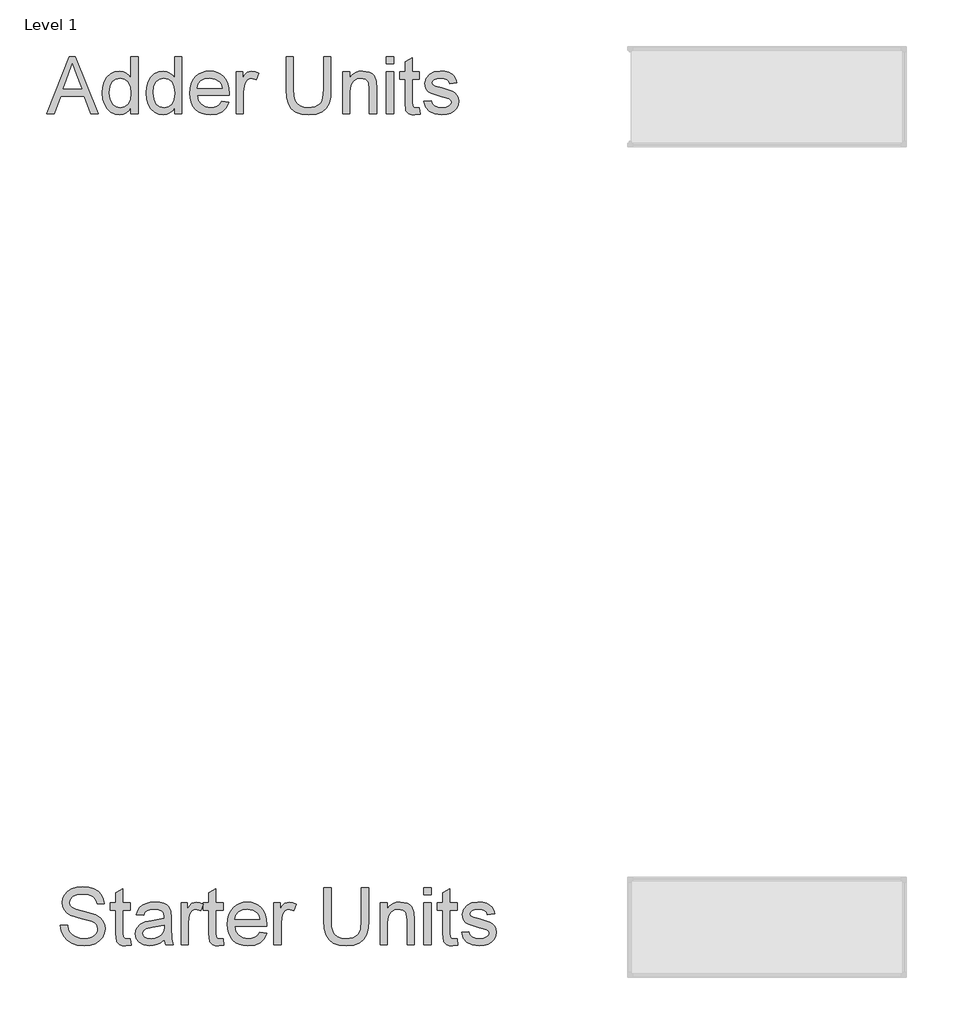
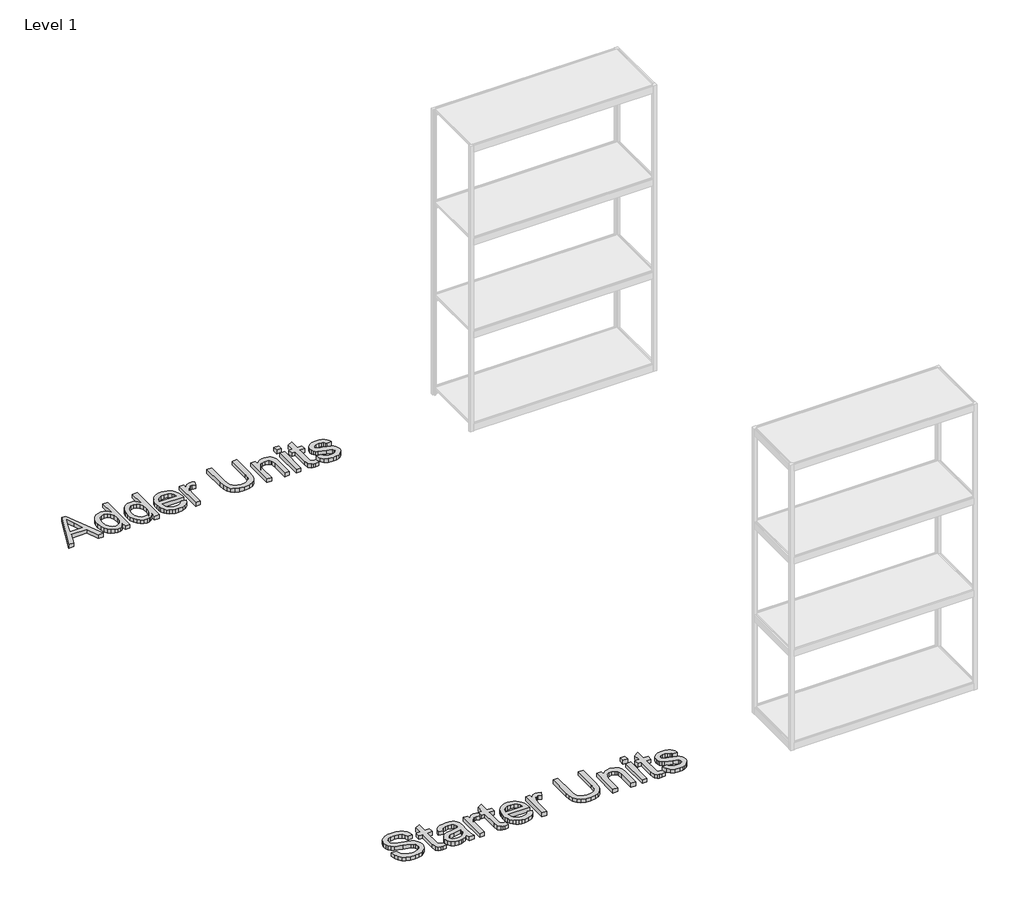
# One storey, part 5 of 5: 2 proxies.
"""IFC4 building model written with IfcOpenShell, lengths in millimetres."""

from ifc_helpers import new_model, si_unit, origin, origin_with_axes, place, context, project, spatial, polyline, outline, extrude, element, save

model = new_model("IFC4")

# Units and contexts
model_context = context("Model", 3, world=origin())
ifc_project = project(units=[si_unit("LENGTHUNIT", "METRE", prefix="MILLI")], contexts=[model_context])

# Site, building, storey
site = spatial("IfcSite", under=ifc_project)
building = spatial("IfcBuilding", under=site)
storey = spatial("IfcBuildingStorey", under=building, Name="Level 1", Elevation=0.0)

# Proxies
placement = place(None, origin())
element("IfcBuildingElementProxy", 1, Name="24\" Arial", ObjectType="24\" Arial", at=placement, inside=storey, context=model_context, shape_type="SweptSolid", body=[
    extrude(outline(polyline([(-16297.6602971, 13378.2772737), (-16197.8309701, 13628.3695814), (-16171.2098163, 13628.3695814), (-16071.3804894, 13378.2772737), (-16104.4127009, 13378.2772737), (-16133.0487586, 13456.4311199), (-16236.0530855, 13456.4311199), (-16264.6280855, 13378.2772737), (-16297.6602971, 13378.2772737)]), holes=[polyline([(-16224.5742394, 13487.6926583), (-16144.4665471, 13487.6926583), (-16166.9968355, 13549.1777545), (-16184.5203932, 13597.108043), (-16200.0901047, 13554.5508314), (-16224.5742394, 13487.6926583)])]), origin_with_axes(), (0.0, 0.0, 1.0), 25.4),
    extrude(outline(polyline([(-15928.5665471, 13378.2772737), (-15928.5665471, 13407.7681391), (-15937.9198223, 13393.1562701), (-15949.2498403, 13382.7192208), (-15962.5566011, 13376.4569913), (-15977.8401047, 13374.3695814), (-15998.0502009, 13377.3919372), (-16016.5506817, 13386.4590045), (-16032.2119797, 13400.9373098), (-16043.9045278, 13420.1933795), (-16051.1856576, 13443.4487281), (-16053.6127009, 13469.9248699), (-16051.3764629, 13496.0728266), (-16044.667749, 13519.6868891), (-16033.4941913, 13539.4237881), (-16017.8634221, 13553.9402545), (-15998.9584341, 13562.869942), (-15977.9622201, 13565.8465045), (-15962.6672682, 13563.7171175), (-15949.1429894, 13557.3289564), (-15937.6794076, 13547.536829), (-15928.5665471, 13535.195543), (-15928.5665471, 13628.3695814), (-15897.3050086, 13628.3695814), (-15897.3050086, 13378.2772737), (-15928.5665471, 13378.2772737)]), holes=[polyline([(-16022.3511624, 13470.0469853), (-16018.8250807, 13441.7696415), (-16008.2468355, 13421.6587641), (-15992.8755615, 13409.6380309), (-15974.9703932, 13405.6311199), (-15957.0728571, 13409.4548579), (-15942.0908259, 13420.9260718), (-15931.9476168, 13440.2584636), (-15928.5665471, 13467.6657353), (-15932.0086745, 13497.6297978), (-15942.3350567, 13518.4046776), (-15957.6986985, 13530.5398939), (-15976.2526047, 13534.584966), (-15994.3409461, 13530.7001704), (-16009.1627009, 13519.0457833), (-16019.0540471, 13499.0264925), (-16022.3511624, 13470.0469853)])]), origin_with_axes(), (0.0, 0.0, 1.0), 25.4),
    extrude(outline(polyline([(-15737.089624, 13378.2772737), (-15737.089624, 13407.7681391), (-15746.4428992, 13393.1562701), (-15757.7729172, 13382.7192208), (-15771.0796781, 13376.4569913), (-15786.3631817, 13374.3695814), (-15806.5732778, 13377.3919372), (-15825.0737586, 13386.4590045), (-15840.7350567, 13400.9373098), (-15852.4276047, 13420.1933795), (-15859.7087346, 13443.4487281), (-15862.1357778, 13469.9248699), (-15859.8995398, 13496.0728266), (-15853.1908259, 13519.6868891), (-15842.0172682, 13539.4237881), (-15826.386499, 13553.9402545), (-15807.481511, 13562.869942), (-15786.4852971, 13565.8465045), (-15771.1903451, 13563.7171175), (-15757.6660663, 13557.3289564), (-15746.2024846, 13547.536829), (-15737.089624, 13535.195543), (-15737.089624, 13628.3695814), (-15705.8280855, 13628.3695814), (-15705.8280855, 13378.2772737), (-15737.089624, 13378.2772737)]), holes=[polyline([(-15830.8742394, 13470.0469853), (-15827.3481576, 13441.7696415), (-15816.7699124, 13421.6587641), (-15801.3986384, 13409.6380309), (-15783.4934701, 13405.6311199), (-15765.5959341, 13409.4548579), (-15750.6139028, 13420.9260718), (-15740.4706937, 13440.2584636), (-15737.089624, 13467.6657353), (-15740.5317514, 13497.6297978), (-15750.8581336, 13518.4046776), (-15766.2217754, 13530.5398939), (-15784.7756817, 13534.584966), (-15802.864023, 13530.7001704), (-15817.6857778, 13519.0457833), (-15827.577124, 13499.0264925), (-15830.8742394, 13470.0469853)])]), origin_with_axes(), (0.0, 0.0, 1.0), 25.4),
    extrude(outline(polyline([(-15530.3482778, 13432.984966), (-15499.6973163, 13429.0772737), (-15510.7411264, 13405.9822016), (-15528.3639028, 13388.7181391), (-15552.1687706, 13377.9567208), (-15581.7588547, 13374.3695814), (-15601.1561204, 13375.9170123), (-15618.4392634, 13380.559305), (-15633.6082838, 13388.2964594), (-15646.6631817, 13399.1284756), (-15657.1612886, 13412.7538813), (-15664.6599365, 13428.871204), (-15669.1591252, 13447.4804438), (-15670.6588547, 13468.5816006), (-15669.1438608, 13490.3982773), (-15664.5988788, 13509.6276343), (-15657.0239088, 13526.2696716), (-15646.4189509, 13540.3243891), (-15633.398398, 13551.4903146), (-15618.5766432, 13559.4659756), (-15601.9536865, 13564.2513723), (-15583.5295278, 13565.8465045), (-15565.6987736, 13564.2551884), (-15549.5738187, 13559.4812401), (-15535.154663, 13551.5246595), (-15522.4413067, 13540.3854468), (-15512.063407, 13526.3612581), (-15504.6506216, 13509.7497497), (-15500.2029503, 13490.5509216), (-15498.7203932, 13468.7647737), (-15498.9035663, 13460.3388122), (-15639.3973163, 13460.3388122), (-15633.9860783, 13436.9384516), (-15621.4158259, 13419.7354468), (-15603.2740591, 13409.1572016), (-15581.1482778, 13405.6311199), (-15564.5100567, 13407.2644131), (-15550.4973163, 13412.164293), (-15539.1100567, 13420.6360478), (-15530.3482778, 13432.984966)]), holes=[polyline([(-15639.3973163, 13491.6003506), (-15529.9819317, 13491.6003506), (-15534.2101769, 13508.1164564), (-15542.4987586, 13519.9311199), (-15560.7244797, 13530.9215045), (-15583.6516432, 13534.584966), (-15604.7241793, 13531.661829), (-15622.1485182, 13522.892418), (-15634.2608379, 13509.2231271), (-15639.3973163, 13491.6003506)])]), origin_with_axes(), (0.0, 0.0, 1.0), 25.4),
    extrude(outline(polyline([(-15467.4588547, 13378.2772737), (-15467.4588547, 13561.9388122), (-15440.1050086, 13561.9388122), (-15440.1050086, 13534.7681391), (-15429.9999605, 13550.5210237), (-15420.6886624, 13559.801793), (-15401.1502009, 13565.8465045), (-15385.5804894, 13563.4347256), (-15369.7665471, 13556.1993891), (-15380.2074124, 13528.1739083), (-15402.1881817, 13534.584966), (-15411.5223764, 13533.0432593), (-15419.8643836, 13528.4181391), (-15431.1295278, 13511.3219853), (-15436.1973163, 13474.8094853), (-15436.1973163, 13378.2772737), (-15467.4588547, 13378.2772737)])), origin_with_axes(), (0.0, 0.0, 1.0), 25.4),
    extrude(outline(polyline([(-15084.5050086, 13628.3695814), (-15053.2434701, 13628.3695814), (-15053.2434701, 13484.0902545), (-15055.3652249, 13450.302454), (-15061.7304894, 13424.2842449), (-15073.6214749, 13404.2115285), (-15092.3203932, 13388.2602064), (-15117.8730374, 13377.8422377), (-15150.3252009, 13374.3695814), (-15182.0675687, 13377.3919372), (-15207.4446721, 13386.4590045), (-15226.4641432, 13401.2578627), (-15239.1336144, 13421.475591), (-15246.2544677, 13448.5928386), (-15248.6280855, 13484.0902545), (-15248.6280855, 13628.3695814), (-15217.3665471, 13628.3695814), (-15217.3665471, 13485.189293), (-15215.8248403, 13457.0951223), (-15211.1997201, 13437.5337641), (-15202.8195519, 13423.9865886), (-15190.0127009, 13413.934966), (-15173.3134221, 13407.7070814), (-15153.2559701, 13405.6311199), (-15121.4601769, 13409.7372497), (-15100.3189509, 13422.0556391), (-15093.4003511, 13432.1606872), (-15088.4584942, 13446.0513122), (-15084.5050086, 13485.189293), (-15084.5050086, 13628.3695814)])), origin_with_axes(), (0.0, 0.0, 1.0), 25.4),
    extrude(outline(polyline([(-15002.4434701, 13378.2772737), (-15002.4434701, 13561.9388122), (-14971.1819317, 13561.9388122), (-14971.1819317, 13536.2945814), (-14960.3212946, 13549.2235478), (-14947.2778451, 13558.4585237), (-14932.0515831, 13563.9995093), (-14914.6425086, 13565.8465045), (-14885.1211144, 13559.8933795), (-14873.3522442, 13553.0091247), (-14864.9720759, 13544.2626103), (-14855.5997201, 13521.2743891), (-14853.9511624, 13491.0508314), (-14853.9511624, 13378.2772737), (-14885.2127009, 13378.2772737), (-14885.2127009, 13486.8378506), (-14888.8151047, 13514.4969853), (-14893.7989389, 13522.7321415), (-14901.5456336, 13529.1203026), (-14923.0074124, 13534.584966), (-14941.3170879, 13531.516817), (-14956.9249605, 13522.3123699), (-14967.6176889, 13504.529317), (-14971.1819317, 13475.7253506), (-14971.1819317, 13378.2772737), (-15002.4434701, 13378.2772737)])), origin_with_axes(), (0.0, 0.0, 1.0), 25.4),
    extrude(outline(polyline([(-14810.9665471, 13378.2772737), (-14810.9665471, 13561.9388122), (-14779.7050086, 13561.9388122), (-14779.7050086, 13378.2772737), (-14810.9665471, 13378.2772737)])), origin_with_axes(), (0.0, 0.0, 1.0), 25.4),
    extrude(outline(polyline([(-14810.9665471, 13597.108043), (-14810.9665471, 13628.3695814), (-14779.7050086, 13628.3695814), (-14779.7050086, 13597.108043), (-14810.9665471, 13597.108043)])), origin_with_axes(), (0.0, 0.0, 1.0), 25.4),
    extrude(outline(polyline([(-14666.3819317, 13404.3489083), (-14662.4742394, 13377.3614083), (-14685.8593355, 13374.3695814), (-14700.8642634, 13375.6670574), (-14712.0530855, 13379.5594853), (-14725.1194317, 13393.1753506), (-14728.9050086, 13428.6498699), (-14728.9050086, 13530.6772737), (-14752.3511624, 13530.6772737), (-14752.3511624, 13561.9388122), (-14728.9050086, 13561.9388122), (-14728.9050086, 13606.5719853), (-14697.6434701, 13624.9503506), (-14697.6434701, 13561.9388122), (-14666.3819317, 13561.9388122), (-14666.3819317, 13530.6772737), (-14697.6434701, 13530.6772737), (-14697.6434701, 13429.5657353), (-14695.9949124, 13413.4465045), (-14690.6523644, 13407.7376103), (-14679.9977971, 13405.6311199), (-14666.3819317, 13404.3489083)])), origin_with_axes(), (0.0, 0.0, 1.0), 25.4),
    extrude(outline(polyline([(-14646.8434701, 13432.984966), (-14615.5819317, 13436.8926583), (-14610.651523, 13423.5210237), (-14601.1112586, 13413.6907353), (-14586.9000807, 13407.6460237), (-14567.9569317, 13405.6311199), (-14549.242749, 13407.4781151), (-14536.0848163, 13413.0191006), (-14528.2999605, 13421.0481872), (-14525.7050086, 13430.3594853), (-14528.3152249, 13438.3275141), (-14536.145874, 13444.4027545), (-14568.3232778, 13453.3171776), (-14615.3987586, 13468.6121295), (-14627.3126408, 13476.2977665), (-14635.9446721, 13486.4715045), (-14641.1880014, 13498.4846055), (-14642.9357778, 13511.6883314), (-14637.3184701, 13534.981841), (-14621.9929894, 13552.7801583), (-14602.1187105, 13562.0303987), (-14575.2227971, 13565.8465045), (-14554.8753211, 13564.31243), (-14537.1838547, 13559.7102064), (-14522.9574124, 13552.4901343), (-14513.0050086, 13543.1025141), (-14506.4107778, 13530.8528146), (-14502.2588547, 13515.0465045), (-14533.5203932, 13511.1388122), (-14537.4662466, 13520.9767329), (-14545.273999, 13528.3876103), (-14557.0199725, 13533.0356271), (-14572.7804894, 13534.584966), (-14590.7314509, 13533.104317), (-14602.6987586, 13528.6623699), (-14609.4303692, 13522.2513122), (-14611.6742394, 13514.8633314), (-14607.9497201, 13505.7657353), (-14596.2877009, 13498.866216), (-14569.3612586, 13492.2109276), (-14523.4764028, 13477.4960237), (-14511.3564509, 13470.4591247), (-14502.1672682, 13460.8272737), (-14496.3744196, 13448.569942), (-14494.4434701, 13433.6566006), (-14496.710237, 13418.2395333), (-14503.5105374, 13403.7383314), (-14514.5848764, 13391.2901944), (-14529.6737586, 13382.0323218), (-14547.8994797, 13376.2852665), (-14568.3843355, 13374.3695814), (-14599.9053692, 13378.0635718), (-14622.9088547, 13389.145543), (-14638.2648644, 13407.4933795), (-14646.8434701, 13432.984966)])), origin_with_axes(), (0.0, 0.0, 1.0), 25.4),
])
element("IfcBuildingElementProxy", 2, Name="24\" Arial", ObjectType="24\" Arial", at=placement, inside=storey, context=model_context, shape_type="SweptSolid", body=[
    extrude(outline(polyline([(-16236.806054, 9828.6955058), (-16205.5445155, 9828.6955058), (-16201.9573761, 9811.3474889), (-16195.4699963, 9797.4034385), (-16185.3496838, 9786.3367317), (-16170.8637463, 9777.6207462), (-16153.1570155, 9771.9652774), (-16133.3743232, 9770.0801212), (-16115.9576165, 9771.5073447), (-16100.7084578, 9775.7890154), (-16088.3519073, 9782.5664192), (-16079.6130251, 9791.4808423), (-16074.4154891, 9801.715638), (-16072.682977, 9812.4541596), (-16077.8728809, 9831.9620923), (-16085.779852, 9839.6782582), (-16099.1209578, 9846.1580058), (-16144.6394674, 9858.0947846), (-16193.6382655, 9873.5118519), (-16209.2003448, 9884.0290394), (-16220.2288905, 9896.7748327), (-16226.8002246, 9911.4744721), (-16228.9906693, 9927.8531981), (-16226.2812343, 9946.1628736), (-16218.152929, 9963.2361308), (-16204.8194554, 9977.7068038), (-16186.4945155, 9988.2087269), (-16164.4984818, 9994.596888), (-16140.151727, 9996.726275), (-16113.774804, 9994.4976692), (-16090.6949963, 9987.8118519), (-16071.7365828, 9976.8062029), (-16057.7238424, 9961.6181019), (-16048.8552126, 9943.1939433), (-16045.3291309, 9922.4801212), (-16076.5906693, 9922.4801212), (-16082.3300924, 9941.1332462), (-16094.2974001, 9954.5964673), (-16112.9963184, 9962.7476692), (-16138.9305732, 9965.4647365), (-16165.4754049, 9962.7781981), (-16183.6858617, 9954.7185827), (-16194.2183136, 9942.858126), (-16197.7291309, 9928.7690635), (-16195.2410299, 9916.7559625), (-16187.776727, 9907.0935827), (-16170.131054, 9898.4539192), (-16136.7324963, 9889.6310827), (-16081.414227, 9873.9392558), (-16063.5930131, 9862.5977894), (-16051.1601405, 9848.6003135), (-16043.8561141, 9832.0994721), (-16041.4214386, 9813.2479096), (-16044.2224602, 9793.9765755), (-16052.6255251, 9775.8500731), (-16066.2871838, 9760.2498327), (-16084.8639867, 9748.5572846), (-16107.2034698, 9741.2532582), (-16132.1531693, 9738.8185827), (-16162.7812343, 9741.4440635), (-16187.990429, 9749.3205058), (-16208.0707775, 9762.4784385), (-16223.312304, 9780.9483904), (-16233.0967992, 9803.44815), (-16236.806054, 9828.6955058)])), origin_with_axes(), (0.0, 0.0, 1.0), 25.4),
    extrude(outline(polyline([(-15932.006054, 9768.7979096), (-15928.0983617, 9741.8104096), (-15951.4834578, 9738.8185827), (-15966.4883857, 9740.1160587), (-15977.6772078, 9744.0084865), (-15990.743554, 9757.6243519), (-15994.5291309, 9793.0988712), (-15994.5291309, 9895.126275), (-16017.9752847, 9895.126275), (-16017.9752847, 9926.3878135), (-15994.5291309, 9926.3878135), (-15994.5291309, 9971.0209865), (-15963.2675924, 9989.3993519), (-15963.2675924, 9926.3878135), (-15932.006054, 9926.3878135), (-15932.006054, 9895.126275), (-15963.2675924, 9895.126275), (-15963.2675924, 9794.0147365), (-15961.6190347, 9777.8955058), (-15956.2764867, 9772.1866115), (-15945.6219193, 9770.0801212), (-15932.006054, 9768.7979096)])), origin_with_axes(), (0.0, 0.0, 1.0), 25.4),
    extrude(outline(polyline([(-15783.5137463, 9766.1724288), (-15798.4499843, 9753.3655779), (-15813.8288905, 9744.9854096), (-15830.0015468, 9740.3602894), (-15847.3190347, 9738.8185827), (-15873.4440948, 9742.5278375), (-15892.715429, 9753.6556019), (-15904.5987823, 9770.5533183), (-15908.5599001, 9791.5724288), (-15907.0639867, 9804.531924), (-15902.5762463, 9816.3007942), (-15886.8538905, 9834.2517558), (-15864.9647078, 9844.5094481), (-15837.9161501, 9849.2108904), (-15783.6969193, 9859.9570442), (-15783.5137463, 9866.9176212), (-15785.6660299, 9880.8693038), (-15792.1228809, 9889.9974288), (-15806.5630251, 9896.7748327), (-15826.6815347, 9899.0339673), (-15845.3041309, 9897.5304216), (-15858.3094193, 9893.0197846), (-15867.1780492, 9884.6777774), (-15873.3906693, 9871.6801212), (-15904.6522078, 9875.5878135), (-15899.2257054, 9892.6839673), (-15891.127929, 9906.1166596), (-15879.6032895, 9916.3896163), (-15863.8961982, 9924.0065635), (-15844.6859218, 9928.7232702), (-15822.651727, 9930.2955058), (-15801.5181333, 9928.9064433), (-15784.765429, 9924.7392558), (-15772.1341189, 9918.4732101), (-15763.3647078, 9910.7875731), (-15753.7786501, 9889.570025), (-15752.2522078, 9862.2161788), (-15752.2522078, 9823.3224288), (-15750.6647078, 9769.0116115), (-15744.4368232, 9742.726275), (-15775.6983617, 9742.726275), (-15783.5137463, 9766.1724288)]), holes=[polyline([(-15783.5137463, 9828.6955058), (-15833.9474001, 9819.1094481), (-15860.8433136, 9814.0416596), (-15873.0243232, 9805.7988712), (-15877.2983617, 9793.7705058), (-15874.9705371, 9784.4744721), (-15867.9870636, 9776.857525), (-15856.5005852, 9771.7744721), (-15840.6637463, 9770.0801212), (-15823.8728809, 9771.950013), (-15809.0358617, 9777.5596885), (-15797.0074963, 9785.8253736), (-15788.6425924, 9795.6632942), (-15784.9333376, 9805.7988712), (-15783.6969193, 9819.8421404), (-15783.5137463, 9828.6955058)])]), origin_with_axes(), (0.0, 0.0, 1.0), 25.4),
    extrude(outline(polyline([(-15709.2675924, 9742.726275), (-15709.2675924, 9926.3878135), (-15681.9137463, 9926.3878135), (-15681.9137463, 9899.2171404), (-15671.8086982, 9914.970025), (-15662.4974001, 9924.2507942), (-15642.9589386, 9930.2955058), (-15627.389227, 9927.8837269), (-15611.5752847, 9920.6483904), (-15622.0161501, 9892.6229096), (-15643.9969193, 9899.0339673), (-15653.3311141, 9897.4922606), (-15661.6731213, 9892.8671404), (-15672.9382655, 9875.7709865), (-15678.006054, 9839.2584865), (-15678.006054, 9742.726275), (-15709.2675924, 9742.726275)])), origin_with_axes(), (0.0, 0.0, 1.0), 25.4),
    extrude(outline(polyline([(-15525.606054, 9768.7979096), (-15521.6983617, 9741.8104096), (-15545.0834578, 9738.8185827), (-15560.0883857, 9740.1160587), (-15571.2772078, 9744.0084865), (-15584.343554, 9757.6243519), (-15588.1291309, 9793.0988712), (-15588.1291309, 9895.126275), (-15611.5752847, 9895.126275), (-15611.5752847, 9926.3878135), (-15588.1291309, 9926.3878135), (-15588.1291309, 9971.0209865), (-15556.8675924, 9989.3993519), (-15556.8675924, 9926.3878135), (-15525.606054, 9926.3878135), (-15525.606054, 9895.126275), (-15556.8675924, 9895.126275), (-15556.8675924, 9794.0147365), (-15555.2190347, 9777.8955058), (-15549.8764867, 9772.1866115), (-15539.2219193, 9770.0801212), (-15525.606054, 9768.7979096)])), origin_with_axes(), (0.0, 0.0, 1.0), 25.4),
    extrude(outline(polyline([(-15365.7570155, 9797.4339673), (-15335.106054, 9793.526275), (-15346.1498641, 9770.4312029), (-15363.7726405, 9753.1671404), (-15387.5775083, 9742.4057221), (-15417.1675924, 9738.8185827), (-15436.564858, 9740.3660136), (-15453.8480011, 9745.0083063), (-15469.0170215, 9752.7454607), (-15482.0719193, 9763.5774769), (-15492.5700263, 9777.2028826), (-15500.0686742, 9793.3202053), (-15504.5678629, 9811.9294451), (-15506.0675924, 9833.0306019), (-15504.5525984, 9854.8472786), (-15500.0076165, 9874.0766356), (-15492.4326465, 9890.7186728), (-15481.8276886, 9904.7733904), (-15468.8071357, 9915.9393159), (-15453.9853809, 9923.9149769), (-15437.3624242, 9928.7003736), (-15418.9382655, 9930.2955058), (-15401.1075113, 9928.7041897), (-15384.9825564, 9923.9302413), (-15370.5634007, 9915.9736608), (-15357.8500443, 9904.8344481), (-15347.4721447, 9890.8102594), (-15340.0593593, 9874.198751), (-15335.611688, 9854.9999228), (-15334.1291309, 9833.213775), (-15334.312304, 9824.7878135), (-15474.806054, 9824.7878135), (-15469.394816, 9801.3874529), (-15456.8245636, 9784.1844481), (-15438.6827968, 9773.6062029), (-15416.5570155, 9770.0801212), (-15399.9187943, 9771.7134144), (-15385.906054, 9776.6132942), (-15374.5187943, 9785.085049), (-15365.7570155, 9797.4339673)]), holes=[polyline([(-15474.806054, 9856.0493519), (-15365.3906693, 9856.0493519), (-15369.6189145, 9872.5654577), (-15377.9074963, 9884.3801212), (-15396.1332174, 9895.3705058), (-15419.0603809, 9899.0339673), (-15440.1329169, 9896.1108303), (-15457.5572559, 9887.3414192), (-15469.6695756, 9873.6721284), (-15474.806054, 9856.0493519)])]), origin_with_axes(), (0.0, 0.0, 1.0), 25.4),
    extrude(outline(polyline([(-15302.8675924, 9742.726275), (-15302.8675924, 9926.3878135), (-15275.5137463, 9926.3878135), (-15275.5137463, 9899.2171404), (-15265.4086982, 9914.970025), (-15256.0974001, 9924.2507942), (-15236.5589386, 9930.2955058), (-15220.989227, 9927.8837269), (-15205.1752847, 9920.6483904), (-15215.6161501, 9892.6229096), (-15237.5969193, 9899.0339673), (-15246.9311141, 9897.4922606), (-15255.2731213, 9892.8671404), (-15266.5382655, 9875.7709865), (-15271.606054, 9839.2584865), (-15271.606054, 9742.726275), (-15302.8675924, 9742.726275)])), origin_with_axes(), (0.0, 0.0, 1.0), 25.4),
    extrude(outline(polyline([(-14919.9137463, 9992.8185827), (-14888.6522078, 9992.8185827), (-14888.6522078, 9848.5392558), (-14890.7739626, 9814.7514553), (-14897.139227, 9788.7332462), (-14909.0302126, 9768.6605298), (-14927.7291309, 9752.7092077), (-14953.2817751, 9742.2912389), (-14985.7339386, 9738.8185827), (-15017.4763064, 9741.8409385), (-15042.8534097, 9750.9080058), (-15061.8728809, 9765.7068639), (-15074.542352, 9785.9245923), (-15081.6632054, 9813.0418399), (-15084.0368232, 9848.5392558), (-15084.0368232, 9992.8185827), (-15052.7752847, 9992.8185827), (-15052.7752847, 9849.6382942), (-15051.233578, 9821.5441236), (-15046.6084578, 9801.9827654), (-15038.2282895, 9788.4355899), (-15025.4214386, 9778.3839673), (-15008.7221597, 9772.1560827), (-14988.6647078, 9770.0801212), (-14956.8689145, 9774.186251), (-14935.7276886, 9786.5046404), (-14928.8090888, 9796.6096885), (-14923.8672318, 9810.5003135), (-14919.9137463, 9849.6382942), (-14919.9137463, 9992.8185827)])), origin_with_axes(), (0.0, 0.0, 1.0), 25.4),
    extrude(outline(polyline([(-14837.8522078, 9742.726275), (-14837.8522078, 9926.3878135), (-14806.5906693, 9926.3878135), (-14806.5906693, 9900.7435827), (-14795.7300323, 9913.672549), (-14782.6865828, 9922.907525), (-14767.4603208, 9928.4485106), (-14750.0512463, 9930.2955058), (-14720.529852, 9924.3423808), (-14708.7609818, 9917.458126), (-14700.3808136, 9908.7116115), (-14691.0084578, 9885.7233904), (-14689.3599001, 9855.4998327), (-14689.3599001, 9742.726275), (-14720.6214386, 9742.726275), (-14720.6214386, 9851.2868519), (-14724.2238424, 9878.9459865), (-14729.2076766, 9887.1811428), (-14736.9543713, 9893.5693038), (-14758.4161501, 9899.0339673), (-14776.7258256, 9895.9658183), (-14792.3336982, 9886.7613712), (-14803.0264266, 9868.9783183), (-14806.5906693, 9840.1743519), (-14806.5906693, 9742.726275), (-14837.8522078, 9742.726275)])), origin_with_axes(), (0.0, 0.0, 1.0), 25.4),
    extrude(outline(polyline([(-14646.3752847, 9742.726275), (-14646.3752847, 9926.3878135), (-14615.1137463, 9926.3878135), (-14615.1137463, 9742.726275), (-14646.3752847, 9742.726275)])), origin_with_axes(), (0.0, 0.0, 1.0), 25.4),
    extrude(outline(polyline([(-14646.3752847, 9961.5570442), (-14646.3752847, 9992.8185827), (-14615.1137463, 9992.8185827), (-14615.1137463, 9961.5570442), (-14646.3752847, 9961.5570442)])), origin_with_axes(), (0.0, 0.0, 1.0), 25.4),
    extrude(outline(polyline([(-14501.7906693, 9768.7979096), (-14497.882977, 9741.8104096), (-14521.2680732, 9738.8185827), (-14536.2730011, 9740.1160587), (-14547.4618232, 9744.0084865), (-14560.5281693, 9757.6243519), (-14564.3137463, 9793.0988712), (-14564.3137463, 9895.126275), (-14587.7599001, 9895.126275), (-14587.7599001, 9926.3878135), (-14564.3137463, 9926.3878135), (-14564.3137463, 9971.0209865), (-14533.0522078, 9989.3993519), (-14533.0522078, 9926.3878135), (-14501.7906693, 9926.3878135), (-14501.7906693, 9895.126275), (-14533.0522078, 9895.126275), (-14533.0522078, 9794.0147365), (-14531.4036501, 9777.8955058), (-14526.061102, 9772.1866115), (-14515.4065347, 9770.0801212), (-14501.7906693, 9768.7979096)])), origin_with_axes(), (0.0, 0.0, 1.0), 25.4),
    extrude(outline(polyline([(-14482.2522078, 9797.4339673), (-14450.9906693, 9801.3416596), (-14446.0602607, 9787.970025), (-14436.5199963, 9778.1397365), (-14422.3088184, 9772.095025), (-14403.3656693, 9770.0801212), (-14384.6514867, 9771.9271163), (-14371.493554, 9777.4681019), (-14363.7086982, 9785.4971885), (-14361.1137463, 9794.8084865), (-14363.7239626, 9802.7765154), (-14371.5546117, 9808.8517558), (-14403.7320155, 9817.7661788), (-14450.8074963, 9833.0611308), (-14462.7213785, 9840.7467678), (-14471.3534097, 9850.9205058), (-14476.5967391, 9862.9336067), (-14478.3445155, 9876.1373327), (-14472.7272078, 9899.4308423), (-14457.401727, 9917.2291596), (-14437.5274482, 9926.4794), (-14410.6315347, 9930.2955058), (-14390.2840588, 9928.7614313), (-14372.5925924, 9924.1592077), (-14358.3661501, 9916.9391356), (-14348.4137463, 9907.5515154), (-14341.8195155, 9895.3018159), (-14337.6675924, 9879.4955058), (-14368.9291309, 9875.5878135), (-14372.8749843, 9885.4257341), (-14380.6827367, 9892.8366115), (-14392.4287102, 9897.4846284), (-14408.189227, 9899.0339673), (-14426.1401886, 9897.5533183), (-14438.1074963, 9893.1113712), (-14444.8391068, 9886.7003135), (-14447.082977, 9879.3123327), (-14443.3584578, 9870.2147365), (-14431.6964386, 9863.3152173), (-14404.7699963, 9856.6599288), (-14358.8851405, 9841.945025), (-14346.7651886, 9834.908126), (-14337.5760059, 9825.276275), (-14331.7831573, 9813.0189433), (-14329.8522078, 9798.1056019), (-14332.1189746, 9782.6885346), (-14338.9192751, 9768.1873327), (-14349.9936141, 9755.7391957), (-14365.0824963, 9746.4813231), (-14383.3082174, 9740.7342678), (-14403.7930732, 9738.8185827), (-14435.3141068, 9742.5125731), (-14458.3175924, 9753.5945442), (-14473.673602, 9771.9423808), (-14482.2522078, 9797.4339673)])), origin_with_axes(), (0.0, 0.0, 1.0), 25.4),
])

save(model, "model.ifc")
